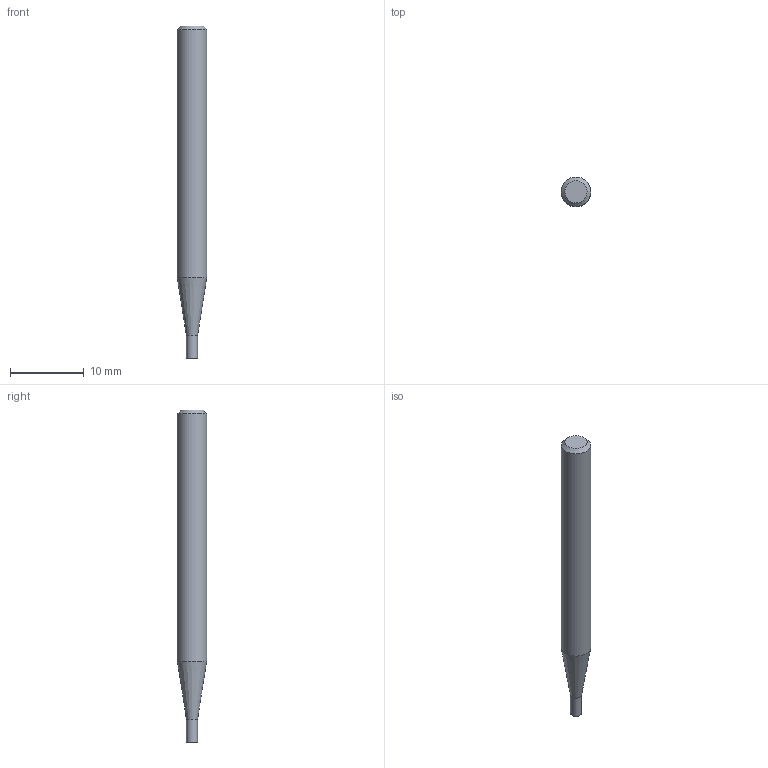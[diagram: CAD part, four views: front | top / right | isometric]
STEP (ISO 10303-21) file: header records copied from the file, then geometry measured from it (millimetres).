
FILE_DESCRIPTION((''),'2;1');
FILE_NAME('C:\Users\nsx150\AppData\Local\Temp\Mastercam 2021\W9Z147XDNF\TEMP.step','2021-04-08T14:29:51',(''),(''),'STEP Write','Mastercam 2021 ... CNC Software, Inc.','');
FILE_SCHEMA(('AUTOMOTIVE_DESIGN'));
Length unit declared in the file: millimetre
Products named in the file (1): None
Bounding box: 4 x 4 x 45 mm (x, y, z)
Volume: 482.6 mm3; surface area: 525.6 mm2
Topology: 2 solids, 2 shells, 8 faces, 10 edges, 6 vertices
Faces by surface type: plane 4, cylinder 2, cone 2
Full cylindrical faces by diameter (mm): 1.5 x1, 4 x1
Entity records: 190 total; most frequent: DIRECTION 32, CARTESIAN_POINT 22, AXIS2_PLACEMENT_3D 16, ORIENTED_EDGE 12, EDGE_LOOP 12, STYLED_ITEM 11, ADVANCED_FACE 8, VERTEX_POINT 6
